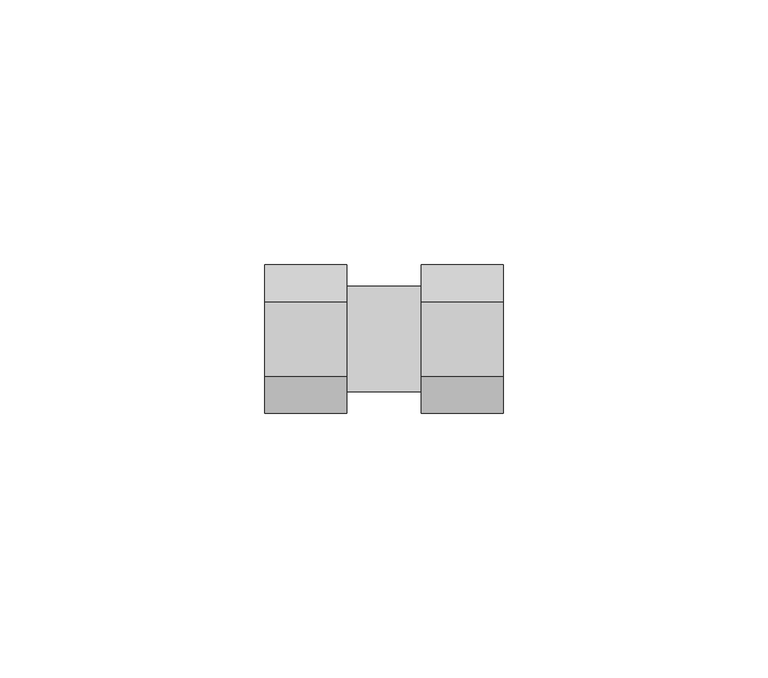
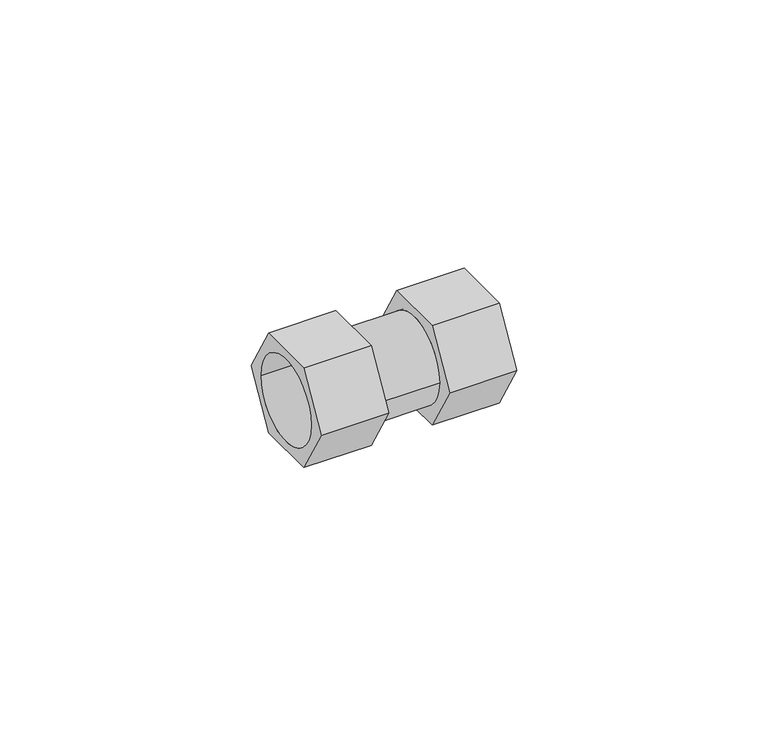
"""IFC4 building model written with IfcOpenShell, lengths in millimetres: pipe fitting geometry, БИР ПЕКС_КМП_Муфта прямая : Муфта ПЕКС Прямая."""

from ifc_helpers import new_model, si_unit, point, frame, origin, origin_2d, place, context, project, spatial, polyline, circle_curve, trimmed, segment, composite_curve, outline, extrude, source, transform, mapped, element, save


def pipe_fitting_0c408b0e(model_context):
    return source(origin(), model_context, "Body", "SweptSolid", [
        extrude(outline(polyline([(-7.0, -12.1243557), (-14.0, 0.0), (-7.0, 12.1243557), (7.0, 12.1243557), (14.0, 0.0), (7.0, -12.1243557), (-7.0, -12.1243557)]), holes=[composite_curve([segment(trimmed(circle_curve(origin_2d(), 10.0), [point((-10.0, 0.0))], [point((10.0, 0.0))], True, "CARTESIAN"), True, "CONTINUOUS"), segment(trimmed(circle_curve(origin_2d(), 10.0), [point((10.0, 0.0))], [point((-10.0, 0.0))], True, "CARTESIAN"), True, "CONTINUOUS")], self_intersect=False)]), frame((7.0, 0.0, 0.0), z_axis=(1.0, 0.0, 0.0), x_axis=(0.0, 1.0, 0.0)), (0.0, 0.0, 1.0), 15.5),
        extrude(outline(polyline([(-7.0, -12.1243557), (-14.0, 0.0), (-7.0, 12.1243557), (7.0, 12.1243557), (14.0, 0.0), (7.0, -12.1243557), (-7.0, -12.1243557)]), holes=[composite_curve([segment(trimmed(circle_curve(origin_2d(), 10.0), [point((-10.0, 0.0))], [point((10.0, 0.0))], True, "CARTESIAN"), True, "CONTINUOUS"), segment(trimmed(circle_curve(origin_2d(), 10.0), [point((10.0, 0.0))], [point((-10.0, 0.0))], True, "CARTESIAN"), True, "CONTINUOUS")], self_intersect=False)]), frame((-22.5, 0.0, 0.0), z_axis=(1.0, 0.0, 0.0), x_axis=(0.0, 1.0, 0.0)), (0.0, 0.0, 1.0), 15.5),
        extrude(outline(composite_curve([segment(trimmed(circle_curve(origin_2d(), 10.0), [point((-10.0, 0.0))], [point((10.0, 0.0))], False, "CARTESIAN"), True, "CONTINUOUS"), segment(trimmed(circle_curve(origin_2d(), 10.0), [point((10.0, 0.0))], [point((-10.0, 0.0))], False, "CARTESIAN"), True, "CONTINUOUS")], self_intersect=False)), frame((-7.0, 0.0, 0.0), z_axis=(1.0, 0.0, 0.0), x_axis=(0.0, 1.0, 0.0)), (0.0, 0.0, 1.0), 14.0),
    ])


if __name__ == "__main__":
    model = new_model("IFC4")
    model_context = context("Model", 3, world=origin())
    ifc_project = project(units=[si_unit("LENGTHUNIT", "METRE", prefix="MILLI")], contexts=[model_context])
    site = spatial("IfcSite", under=ifc_project)
    building = spatial("IfcBuilding", under=site)
    placement = place(None, origin())
    pipe_fitting_shape = pipe_fitting_0c408b0e(model_context)
    element("IfcPipeFitting", 1, ObjectType="БИР ПЕКС_КМП_Муфта прямая : Муфта ПЕКС Прямая", at=placement, inside=building, context=model_context, shape_type="MappedRepresentation", body=[
        mapped(pipe_fitting_shape, transform((0.0, 0.0, 0.0), x_axis=(1.0, 0.0, 0.0), y_axis=(0.0, 1.0, 0.0), z_axis=(0.0, 0.0, 1.0))),
    ])
    save(model, "model.ifc")
